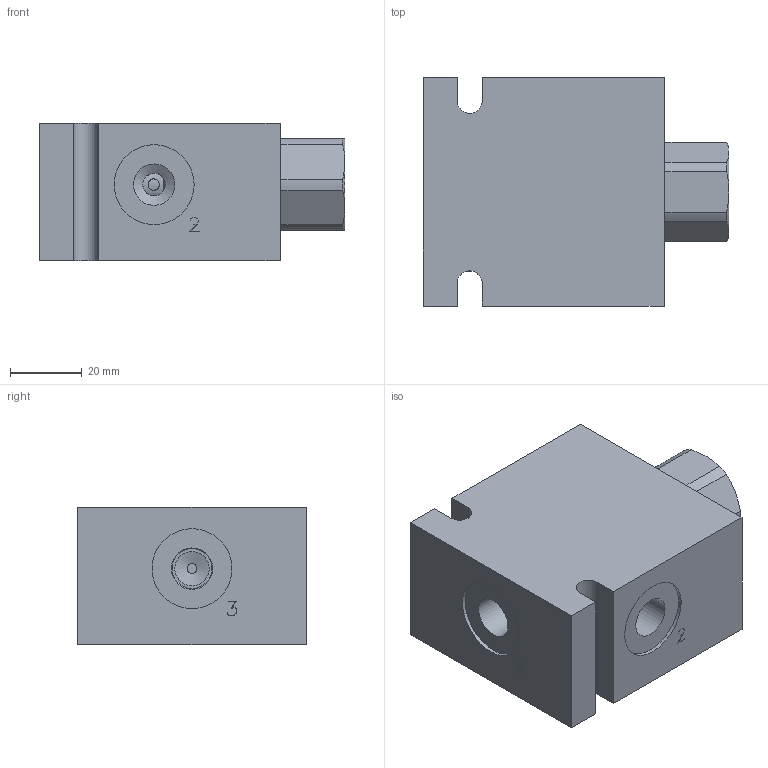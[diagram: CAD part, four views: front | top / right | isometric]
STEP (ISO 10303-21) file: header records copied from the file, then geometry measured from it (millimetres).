
FILE_DESCRIPTION( ( 'Unknown' ), '1' );
FILE_NAME( 'G:/Graphic Design/Graphic Design 2/Data Sheets/FLOW CONTROLS/2_STEP/Priority Flow Regulator Valves/D-DFFCP00-A3.stp', 'Unknown', ( 'Unknown' ), ( 'Unknown' ), 'PSStep 16.0.42', 'Unknown', ' ' );
FILE_SCHEMA( ( 'AUTOMOTIVE_DESIGN { 1 0 10303 214 1 1 1 1 }' ) );
Length unit declared in the file: millimetre
Products named in the file (9): DFFCP00; DFFCP00-3D Full1; DFFCP00-3D Full2; DFFCP00-3D Full3; DFFCP00-3D Full4; DFFCP00-3D Full5; DFFCP00-3D Full6; Assem1; B-DDFA3
Assembly tree (8 placements, depth 3):
  Assem1
    B-DDFA3
    DFFCP00
      DFFCP00-3D Full1
      DFFCP00-3D Full2
      DFFCP00-3D Full3
      DFFCP00-3D Full4
      DFFCP00-3D Full5
      DFFCP00-3D Full6
Bounding box: 85.05 x 63.5 x 38.1 mm (x, y, z)
Surface area: 32071.4 mm2 (no closed solid volume)
Topology: 0 solids, 228 shells, 228 faces, 950 edges, 864 vertices
Faces by surface type: plane 112, cylinder 69, cone 40, torus 7
Full cylindrical faces by diameter (mm): 0.2 x3, 2.739 x1, 3.175 x12, 6.3 x1, 11 x1, 11.11 x1, 11.5 x5, 12.992 x1, 13.043 x1, 14 x1, 14.224 x1, 14.592 x1, 14.643 x1, 15.735 x1, 15.748 x1, 15.773 x2, 15.875 x1, 15.926 x1, 17.323 x1, 17.335 x1, 17.374 x2, 17.526 x1, 17.527 x1, 19.622 x1, 20.262 x2, 22.22 x3, 30.175 x1
Entity records: 13200 total; most frequent: CARTESIAN_POINT 4907, DIRECTION 1178, VERTEX_POINT 835, ORIENTED_EDGE 832, EDGE_CURVE 832, AXIS2_PLACEMENT_3D 478, FACE_BOUND 351, EDGE_LOOP 348
